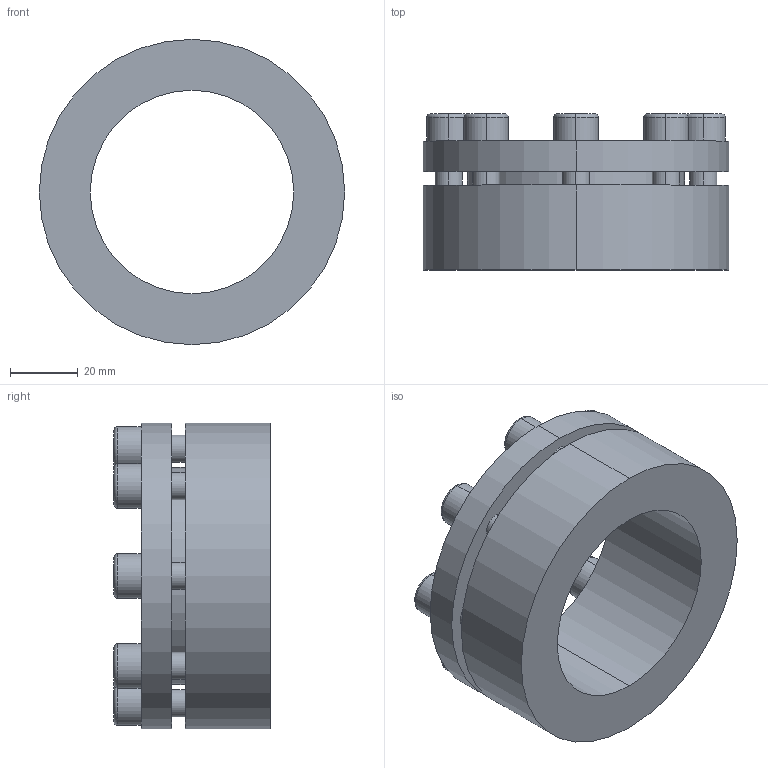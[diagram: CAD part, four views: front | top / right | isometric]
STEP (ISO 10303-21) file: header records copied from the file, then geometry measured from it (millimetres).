
FILE_DESCRIPTION (( 'STEP AP203' ), '1' );
FILE_NAME ('PL-H1 60-90.STEP', '2021-10-23T00:54:58', ( '' ), ( '' ), 'SwSTEP 2.0', 'SolidWorks 2018', '' );
FILE_SCHEMA (( 'CONFIG_CONTROL_DESIGN' ));
Length unit declared in the file: millimetre
Products named in the file (1): PL-H1 60-90
Bounding box: 90 x 46 x 90 mm (x, y, z)
Volume: 130762.1 mm3; surface area: 34073.5 mm2
Topology: 1 solids, 1 shells, 124 faces, 296 edges, 192 vertices
Faces by surface type: plane 68, cylinder 40, torus 16
Entity records: 3717 total; most frequent: DIRECTION 658, CARTESIAN_POINT 613, ORIENTED_EDGE 592, EDGE_CURVE 296, AXIS2_PLACEMENT_3D 237, VERTEX_POINT 192, VECTOR 184, LINE 184
